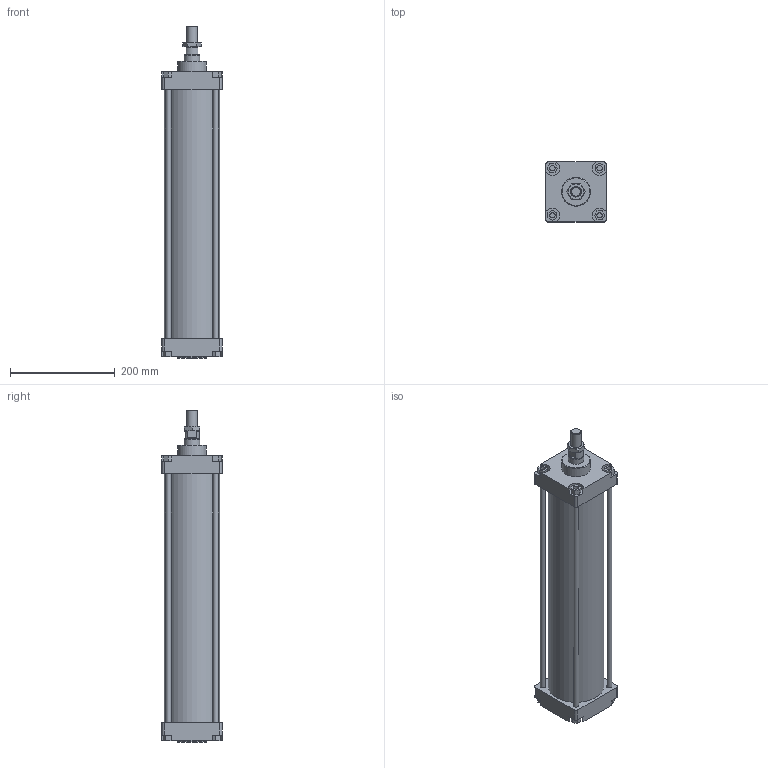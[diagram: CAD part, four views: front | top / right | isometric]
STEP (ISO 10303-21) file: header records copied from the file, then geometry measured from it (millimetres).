
FILE_DESCRIPTION(/* description */ (''),/* implementation_level */ '2;1');
FILE_NAME(/* name */ 'I:\Area Tecnica\Disegni\VARIE-3D\Componenti\CSP\Ø100\130#_100_####_###\130#_100_0400_01A.stp',/* time_stamp */ '2016-11-24T13:51:51+01:00',/* author */ ('Maniean1'),/* organization */ ('Pneumax S.p.A.'),/* preprocessor_version */ 'ST-DEVELOPER v15.2',/* originating_system */ 'Autodesk Inventor 2014',/* authorisation */ '');
FILE_SCHEMA (('AUTOMOTIVE_DESIGN { 1 0 10303 214 3 1 1 }'));
Length unit declared in the file: millimetre
Products named in the file (6): C_130#_100_0400; Testata anteriore_100; Testata posteriore_100; S_130#_100_0400_01A; 130#_100_18F; 130#_100_0400_01A
Bounding box: 115 x 115 x 634 mm (x, y, z)
Volume: 2402091.8 mm3; surface area: 570768.9 mm2
Topology: 9 solids, 9 shells, 162 faces, 380 edges, 249 vertices
Faces by surface type: plane 105, cylinder 42, cone 15
Full cylindrical faces by diameter (mm): 10 x12, 18.376 x1, 18.5 x1, 19 x2, 20 x1, 28 x1, 30 x3, 55 x2, 100 x2, 106 x1
Entity records: 4530 total; most frequent: CARTESIAN_POINT 785, DIRECTION 764, ORIENTED_EDGE 672, EDGE_CURVE 336, AXIS2_PLACEMENT_3D 271, VERTEX_POINT 244, EDGE_LOOP 236, LINE 222
